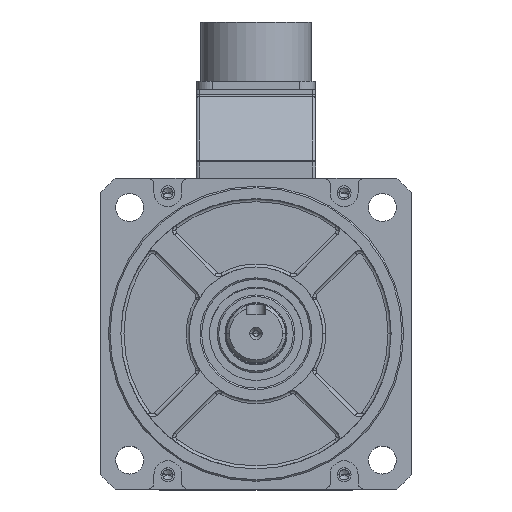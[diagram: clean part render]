
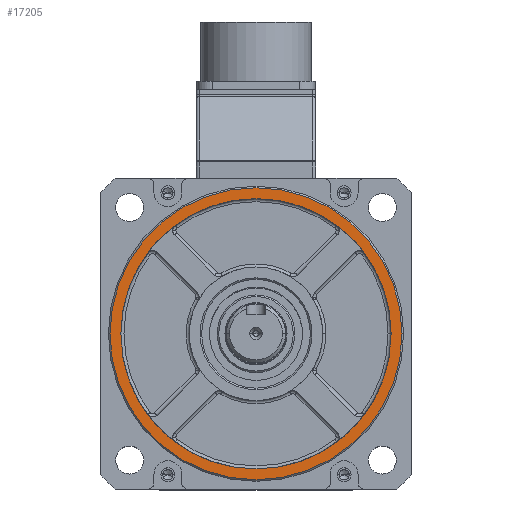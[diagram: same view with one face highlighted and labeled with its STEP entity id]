
A CAD part, top view. The second image highlights one B-rep face of the part: STEP entity #17205.
In plain terms, the highlighted planar face has unit normal (0, 0, 1).
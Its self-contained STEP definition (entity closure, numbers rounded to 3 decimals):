
#370 = VERTEX_POINT ( 'NONE', #35430 ) ;
#2670 = CARTESIAN_POINT ( 'NONE',  ( 0., 0., 13. ) ) ;
#2686 = AXIS2_PLACEMENT_3D ( 'NONE', #39057, #25962, #3102 ) ;
#3102 = DIRECTION ( 'NONE',  ( 1., 0., 0. ) ) ;
#3812 = AXIS2_PLACEMENT_3D ( 'NONE', #2670, #24664, #29693 ) ;
#5353 = CARTESIAN_POINT ( 'NONE',  ( 0., 0., 13. ) ) ;
#5701 = DIRECTION ( 'NONE',  ( 0., 0., 1. ) ) ;
#8114 = AXIS2_PLACEMENT_3D ( 'NONE', #5353, #32391, #32964 ) ;
#11403 = VERTEX_POINT ( 'NONE', #33118 ) ;
#14043 = ORIENTED_EDGE ( 'NONE', *, *, #23110, .F. ) ;
#14919 = DIRECTION ( 'NONE',  ( 1., 0., 0. ) ) ;
#16860 = DIRECTION ( 'NONE',  ( 1., 0., 0. ) ) ;
#17205 = ADVANCED_FACE ( 'NONE', ( #50839, #38321 ), #55593, .T. ) ;
#17368 = CARTESIAN_POINT ( 'NONE',  ( 43.5, 0., 13. ) ) ;
#17993 = EDGE_CURVE ( 'NONE', #370, #11403, #28277, .T. ) ;
#18980 = AXIS2_PLACEMENT_3D ( 'NONE', #21308, #48022, #16860 ) ;
#21308 = CARTESIAN_POINT ( 'NONE',  ( 0., 0., 13. ) ) ;
#23110 = EDGE_CURVE ( 'NONE', #36148, #41797, #28960, .T. ) ;
#24484 = CARTESIAN_POINT ( 'NONE',  ( -43.5, 0., 13. ) ) ;
#24664 = DIRECTION ( 'NONE',  ( 0., 0., 1. ) ) ;
#25337 = ORIENTED_EDGE ( 'NONE', *, *, #43019, .T. ) ;
#25962 = DIRECTION ( 'NONE',  ( 0., 0., 1. ) ) ;
#28277 = CIRCLE ( 'NONE', #2686, 47. ) ;
#28960 = CIRCLE ( 'NONE', #8114, 43.5 ) ;
#29693 = DIRECTION ( 'NONE',  ( 1., 0., 0. ) ) ;
#31192 = ORIENTED_EDGE ( 'NONE', *, *, #17993, .T. ) ;
#32248 = CIRCLE ( 'NONE', #3812, 43.5 ) ;
#32391 = DIRECTION ( 'NONE',  ( 0., 0., 1. ) ) ;
#32964 = DIRECTION ( 'NONE',  ( 1., 0., 0. ) ) ;
#33118 = CARTESIAN_POINT ( 'NONE',  ( -47., 0., 13. ) ) ;
#35123 = EDGE_LOOP ( 'NONE', ( #37779, #14043 ) ) ;
#35430 = CARTESIAN_POINT ( 'NONE',  ( 47., 0., 13. ) ) ;
#36148 = VERTEX_POINT ( 'NONE', #24484 ) ;
#37779 = ORIENTED_EDGE ( 'NONE', *, *, #43650, .F. ) ;
#38321 = FACE_BOUND ( 'NONE', #35123, .T. ) ;
#39057 = CARTESIAN_POINT ( 'NONE',  ( 0., 0., 13. ) ) ;
#40020 = EDGE_LOOP ( 'NONE', ( #25337, #31192 ) ) ;
#41797 = VERTEX_POINT ( 'NONE', #17368 ) ;
#43019 = EDGE_CURVE ( 'NONE', #11403, #370, #57039, .T. ) ;
#43650 = EDGE_CURVE ( 'NONE', #41797, #36148, #32248, .T. ) ;
#44331 = AXIS2_PLACEMENT_3D ( 'NONE', #47253, #5701, #14919 ) ;
#47253 = CARTESIAN_POINT ( 'NONE',  ( 0., 0., 13. ) ) ;
#48022 = DIRECTION ( 'NONE',  ( 0., 0., 1. ) ) ;
#50839 = FACE_OUTER_BOUND ( 'NONE', #40020, .T. ) ;
#55593 = PLANE ( 'NONE',  #44331 ) ;
#57039 = CIRCLE ( 'NONE', #18980, 47. ) ;
